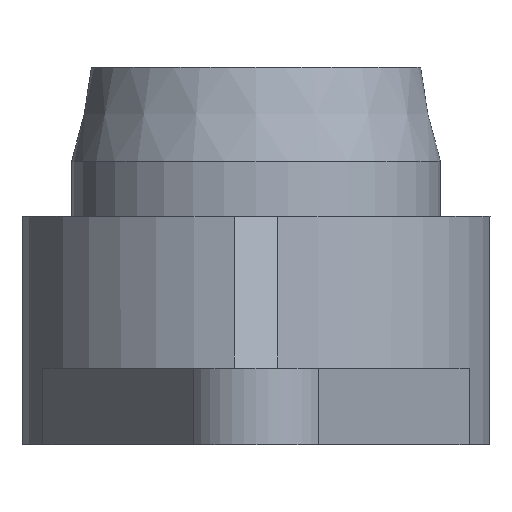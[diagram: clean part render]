
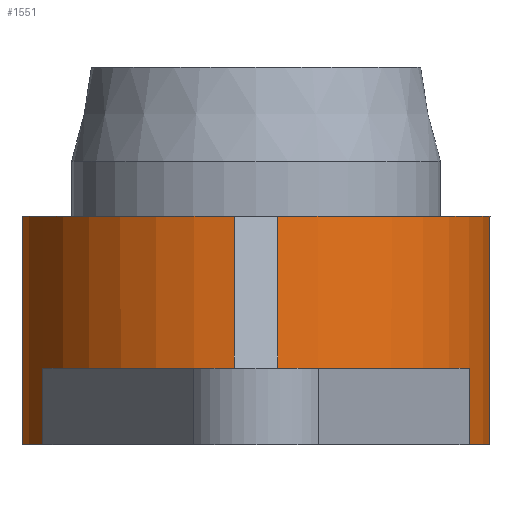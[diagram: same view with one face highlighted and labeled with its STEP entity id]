
A CAD part, front view. The second image highlights one B-rep face of the part: STEP entity #1551.
In plain terms, the highlighted cylindrical face has radius 35 mm (diameter 70 mm), a partial arc.
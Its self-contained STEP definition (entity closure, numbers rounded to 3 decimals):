
#130=FACE_BOUND('',#254,.T.);
#161=FACE_OUTER_BOUND('',#253,.T.);
#253=EDGE_LOOP('',(#1037,#1038,#1039,#1040,#1041,#1042,#1043,#1044));
#254=EDGE_LOOP('',(#1045,#1046));
#369=B_SPLINE_CURVE_WITH_KNOTS('',3,(#2498,#2499,#2500,#2501,#2502,#2503,
#2504,#2505,#2506,#2507,#2508,#2509,#2510,#2511,#2512,#2513,#2514,#2515),
 .UNSPECIFIED.,.F.,.F.,(4,2,2,2,2,2,2,2,4),(0.375,0.469,
0.563,0.657,0.75,0.844,
0.938,1.032,1.125),.UNSPECIFIED.);
#370=B_SPLINE_CURVE_WITH_KNOTS('',3,(#2516,#2517,#2518,#2519,#2520,#2521,
#2522,#2523,#2524,#2525,#2526,#2527,#2528,#2529,#2530,#2531,#2532,#2533,
#2534),.UNSPECIFIED.,.F.,.F.,(4,2,2,2,3,2,2,2,4),(1.125,1.219,
1.313,1.407,1.501,1.594,1.688,
1.782,1.876),.UNSPECIFIED.);
#382=LINE('',#2482,#468);
#383=LINE('',#2486,#469);
#384=LINE('',#2490,#470);
#385=LINE('',#2494,#471);
#468=VECTOR('',#1968,10.);
#469=VECTOR('',#1971,10.);
#470=VECTOR('',#1974,10.);
#471=VECTOR('',#1977,10.);
#560=CIRCLE('',#1758,35.);
#561=CIRCLE('',#1759,35.);
#562=CIRCLE('',#1760,35.);
#563=CIRCLE('',#1761,35.);
#658=VERTEX_POINT('',#2480);
#659=VERTEX_POINT('',#2481);
#660=VERTEX_POINT('',#2483);
#661=VERTEX_POINT('',#2485);
#662=VERTEX_POINT('',#2487);
#663=VERTEX_POINT('',#2489);
#664=VERTEX_POINT('',#2491);
#665=VERTEX_POINT('',#2493);
#666=VERTEX_POINT('',#2496);
#667=VERTEX_POINT('',#2497);
#812=EDGE_CURVE('',#658,#659,#382,.T.);
#813=EDGE_CURVE('',#660,#659,#560,.T.);
#814=EDGE_CURVE('',#661,#660,#383,.T.);
#815=EDGE_CURVE('',#661,#662,#561,.T.);
#816=EDGE_CURVE('',#662,#663,#384,.T.);
#817=EDGE_CURVE('',#664,#663,#562,.T.);
#818=EDGE_CURVE('',#664,#665,#385,.T.);
#819=EDGE_CURVE('',#665,#658,#563,.T.);
#820=EDGE_CURVE('',#666,#667,#369,.T.);
#821=EDGE_CURVE('',#667,#666,#370,.T.);
#1037=ORIENTED_EDGE('',*,*,#812,.T.);
#1038=ORIENTED_EDGE('',*,*,#813,.F.);
#1039=ORIENTED_EDGE('',*,*,#814,.F.);
#1040=ORIENTED_EDGE('',*,*,#815,.T.);
#1041=ORIENTED_EDGE('',*,*,#816,.T.);
#1042=ORIENTED_EDGE('',*,*,#817,.F.);
#1043=ORIENTED_EDGE('',*,*,#818,.T.);
#1044=ORIENTED_EDGE('',*,*,#819,.T.);
#1045=ORIENTED_EDGE('',*,*,#820,.T.);
#1046=ORIENTED_EDGE('',*,*,#821,.T.);
#1466=CYLINDRICAL_SURFACE('',#1757,35.);
#1551=ADVANCED_FACE('',(#161,#130),#1466,.T.);
#1757=AXIS2_PLACEMENT_3D('',#2479,#1966,#1967);
#1758=AXIS2_PLACEMENT_3D('',#2484,#1969,#1970);
#1759=AXIS2_PLACEMENT_3D('',#2488,#1972,#1973);
#1760=AXIS2_PLACEMENT_3D('',#2492,#1975,#1976);
#1761=AXIS2_PLACEMENT_3D('',#2495,#1978,#1979);
#1966=DIRECTION('center_axis',(0.,0.,1.));
#1967=DIRECTION('ref_axis',(0.,1.,0.));
#1968=DIRECTION('',(0.,0.,-1.));
#1969=DIRECTION('center_axis',(0.,0.,
-1.));
#1970=DIRECTION('ref_axis',(-1.,0.,0.));
#1971=DIRECTION('',(0.,0.,1.));
#1972=DIRECTION('center_axis',(0.,0.,1.));
#1973=DIRECTION('ref_axis',(0.907,-0.421,0.));
#1974=DIRECTION('',(0.,0.,1.));
#1975=DIRECTION('center_axis',(0.,0.,
-1.));
#1976=DIRECTION('ref_axis',(-1.,0.,0.));
#1977=DIRECTION('',(0.,0.,1.));
#1978=DIRECTION('center_axis',(0.,0.,-1.));
#1979=DIRECTION('ref_axis',(-1.,0.,0.));
#2479=CARTESIAN_POINT('Origin',(0.,0.,-21.8));
#2480=CARTESIAN_POINT('',(3.25,-34.849,12.2));
#2481=CARTESIAN_POINT('',(3.25,-34.849,-10.4));
#2482=CARTESIAN_POINT('',(3.25,-34.849,-21.8));
#2483=CARTESIAN_POINT('',(31.75,-14.729,-10.4));
#2484=CARTESIAN_POINT('Origin',(0.,0.,-10.4));
#2485=CARTESIAN_POINT('',(31.75,-14.729,-21.8));
#2486=CARTESIAN_POINT('',(31.75,-14.729,-21.8));
#2487=CARTESIAN_POINT('',(-31.75,-14.729,-21.8));
#2488=CARTESIAN_POINT('Origin',(0.,0.,-21.8));
#2489=CARTESIAN_POINT('',(-31.75,-14.729,-10.4));
#2490=CARTESIAN_POINT('',(-31.75,-14.729,-21.8));
#2491=CARTESIAN_POINT('',(-3.25,-34.849,-10.4));
#2492=CARTESIAN_POINT('Origin',(0.,0.,-10.4));
#2493=CARTESIAN_POINT('',(-3.25,-34.849,12.2));
#2494=CARTESIAN_POINT('',(-3.25,-34.849,-21.8));
#2495=CARTESIAN_POINT('Origin',(0.,0.,12.2));
#2496=CARTESIAN_POINT('',(-24.749,24.749,1.711));
#2497=CARTESIAN_POINT('',(-24.749,24.749,6.689));
#2498=CARTESIAN_POINT('Ctrl Pts',(-24.749,24.749,1.711));
#2499=CARTESIAN_POINT('Ctrl Pts',(-24.528,24.97,1.711));
#2500=CARTESIAN_POINT('Ctrl Pts',(-24.289,25.202,1.774));
#2501=CARTESIAN_POINT('Ctrl Pts',(-23.843,25.624,2.028));
#2502=CARTESIAN_POINT('Ctrl Pts',(-23.637,25.814,2.219));
#2503=CARTESIAN_POINT('Ctrl Pts',(-23.309,26.11,2.661));
#2504=CARTESIAN_POINT('Ctrl Pts',(-23.165,26.237,2.941));
#2505=CARTESIAN_POINT('Ctrl Pts',(-22.974,26.405,3.554));
#2506=CARTESIAN_POINT('Ctrl Pts',(-22.926,26.446,3.887));
#2507=CARTESIAN_POINT('Ctrl Pts',(-22.926,26.446,4.513));
#2508=CARTESIAN_POINT('Ctrl Pts',(-22.974,26.405,4.846));
#2509=CARTESIAN_POINT('Ctrl Pts',(-23.165,26.237,5.459));
#2510=CARTESIAN_POINT('Ctrl Pts',(-23.309,26.11,5.739));
#2511=CARTESIAN_POINT('Ctrl Pts',(-23.637,25.814,6.181));
#2512=CARTESIAN_POINT('Ctrl Pts',(-23.843,25.624,6.372));
#2513=CARTESIAN_POINT('Ctrl Pts',(-24.289,25.202,6.626));
#2514=CARTESIAN_POINT('Ctrl Pts',(-24.528,24.97,6.689));
#2515=CARTESIAN_POINT('Ctrl Pts',(-24.749,24.749,6.689));
#2516=CARTESIAN_POINT('Ctrl Pts',(-24.749,24.749,6.689));
#2517=CARTESIAN_POINT('Ctrl Pts',(-24.97,24.528,6.689));
#2518=CARTESIAN_POINT('Ctrl Pts',(-25.202,24.289,6.626));
#2519=CARTESIAN_POINT('Ctrl Pts',(-25.624,23.843,6.372));
#2520=CARTESIAN_POINT('Ctrl Pts',(-25.814,23.637,6.181));
#2521=CARTESIAN_POINT('Ctrl Pts',(-26.11,23.309,5.739));
#2522=CARTESIAN_POINT('Ctrl Pts',(-26.237,23.165,5.459));
#2523=CARTESIAN_POINT('Ctrl Pts',(-26.405,22.974,4.846));
#2524=CARTESIAN_POINT('Ctrl Pts',(-26.446,22.926,4.513));
#2525=CARTESIAN_POINT('Ctrl Pts',(-26.446,22.926,4.2));
#2526=CARTESIAN_POINT('Ctrl Pts',(-26.446,22.926,3.887));
#2527=CARTESIAN_POINT('Ctrl Pts',(-26.405,22.974,3.554));
#2528=CARTESIAN_POINT('Ctrl Pts',(-26.237,23.165,2.941));
#2529=CARTESIAN_POINT('Ctrl Pts',(-26.11,23.309,2.661));
#2530=CARTESIAN_POINT('Ctrl Pts',(-25.814,23.637,2.219));
#2531=CARTESIAN_POINT('Ctrl Pts',(-25.624,23.843,2.028));
#2532=CARTESIAN_POINT('Ctrl Pts',(-25.202,24.289,1.774));
#2533=CARTESIAN_POINT('Ctrl Pts',(-24.97,24.528,1.711));
#2534=CARTESIAN_POINT('Ctrl Pts',(-24.749,24.749,1.711));
